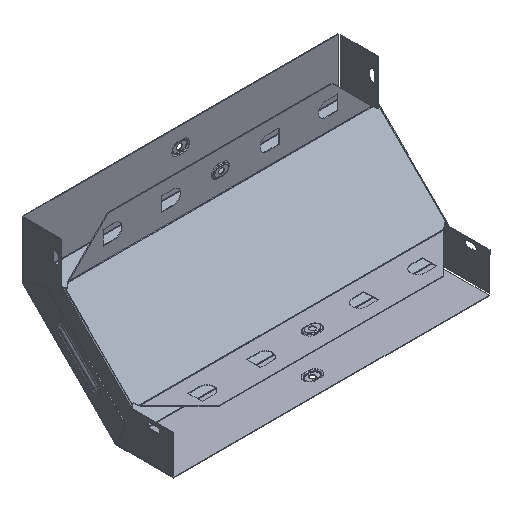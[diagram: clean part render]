
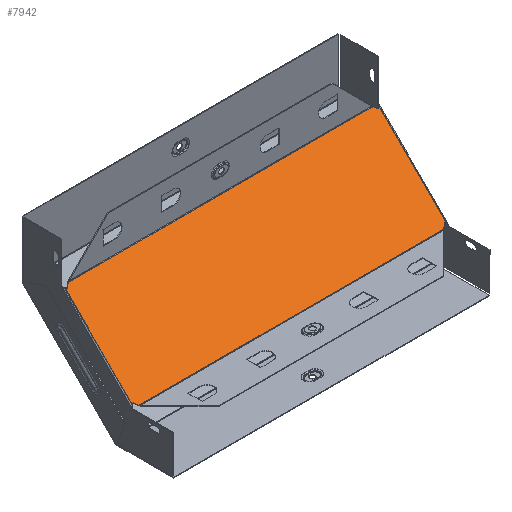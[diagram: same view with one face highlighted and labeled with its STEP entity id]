
A CAD part, isometric view. The second image highlights one B-rep face of the part: STEP entity #7942.
In plain terms, the highlighted planar face has unit normal (0, -0.707, 0.707).
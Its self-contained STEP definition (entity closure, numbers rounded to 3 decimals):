
#61 = VERTEX_POINT ( 'NONE', #5979 ) ;
#316 = CARTESIAN_POINT ( 'NONE',  ( 198.2, 69.707, 19.707 ) ) ;
#332 = ORIENTED_EDGE ( 'NONE', *, *, #7086, .T. ) ;
#737 = CARTESIAN_POINT ( 'NONE',  ( 141.546, 105.512, 55.512 ) ) ;
#755 = DIRECTION ( 'NONE',  ( 0., -0.707, -0.707 ) ) ;
#996 = VECTOR ( 'NONE', #755, 1000. ) ;
#1049 = VERTEX_POINT ( 'NONE', #7172 ) ;
#1067 = DIRECTION ( 'NONE',  ( -0.707, -0.5, -0.5 ) ) ;
#1669 = VERTEX_POINT ( 'NONE', #6723 ) ;
#1671 = ORIENTED_EDGE ( 'NONE', *, *, #8163, .T. ) ;
#1718 = CARTESIAN_POINT ( 'NONE',  ( 198.2, 70., 20. ) ) ;
#1735 = ORIENTED_EDGE ( 'NONE', *, *, #7897, .T. ) ;
#1779 = EDGE_CURVE ( 'NONE', #2046, #3544, #5435, .T. ) ;
#1795 = VERTEX_POINT ( 'NONE', #7406 ) ;
#1927 = PLANE ( 'NONE',  #6112 ) ;
#1936 = CARTESIAN_POINT ( 'NONE',  ( 196.592, -16.588, -66.588 ) ) ;
#1941 = LINE ( 'NONE', #5297, #8362 ) ;
#1946 = DIRECTION ( 'NONE',  ( -1., 0., 0. ) ) ;
#1960 = VECTOR ( 'NONE', #4795, 1000. ) ;
#2046 = VERTEX_POINT ( 'NONE', #4377 ) ;
#2071 = LINE ( 'NONE', #3672, #8037 ) ;
#2230 = VERTEX_POINT ( 'NONE', #4119 ) ;
#2238 = EDGE_CURVE ( 'NONE', #7931, #1795, #4495, .T. ) ;
#2314 = VECTOR ( 'NONE', #3368, 1000. ) ;
#2595 = VECTOR ( 'NONE', #6106, 1000. ) ;
#2610 = ORIENTED_EDGE ( 'NONE', *, *, #1779, .T. ) ;
#2688 = CARTESIAN_POINT ( 'NONE',  ( 141.546, -55.512, -105.512 ) ) ;
#2798 = VECTOR ( 'NONE', #8286, 1000. ) ;
#2942 = CARTESIAN_POINT ( 'NONE',  ( -198.2, 70., 20. ) ) ;
#3004 = LINE ( 'NONE', #2942, #6441 ) ;
#3260 = CARTESIAN_POINT ( 'NONE',  ( 192.181, -19.707, -69.707 ) ) ;
#3262 = CARTESIAN_POINT ( 'NONE',  ( -198.2, -17.724, -67.724 ) ) ;
#3368 = DIRECTION ( 'NONE',  ( 0.707, 0.5, 0.5 ) ) ;
#3480 = CARTESIAN_POINT ( 'NONE',  ( -141.546, -55.512, -105.512 ) ) ;
#3544 = VERTEX_POINT ( 'NONE', #7713 ) ;
#3672 = CARTESIAN_POINT ( 'NONE',  ( -200.299, 69.208, 19.208 ) ) ;
#3806 = CARTESIAN_POINT ( 'NONE',  ( 198.2, 67.724, 17.724 ) ) ;
#4061 = VECTOR ( 'NONE', #4234, 1000. ) ;
#4119 = CARTESIAN_POINT ( 'NONE',  ( 196.592, 66.588, 16.588 ) ) ;
#4133 = VERTEX_POINT ( 'NONE', #1936 ) ;
#4234 = DIRECTION ( 'NONE',  ( 0.707, -0.5, -0.5 ) ) ;
#4257 = LINE ( 'NONE', #6181, #4061 ) ;
#4292 = DIRECTION ( 'NONE',  ( -0.707, 0.5, 0.5 ) ) ;
#4377 = CARTESIAN_POINT ( 'NONE',  ( -196.592, -16.588, -66.588 ) ) ;
#4385 = CARTESIAN_POINT ( 'NONE',  ( -198.2, 67.724, 17.724 ) ) ;
#4435 = CARTESIAN_POINT ( 'NONE',  ( 200.299, 69.208, 19.208 ) ) ;
#4495 = LINE ( 'NONE', #6792, #996 ) ;
#4523 = VECTOR ( 'NONE', #4720, 1000. ) ;
#4720 = DIRECTION ( 'NONE',  ( 0.707, 0.5, 0.5 ) ) ;
#4770 = CARTESIAN_POINT ( 'NONE',  ( -200.299, -19.208, -69.208 ) ) ;
#4795 = DIRECTION ( 'NONE',  ( 0.707, -0.5, -0.5 ) ) ;
#5103 = VECTOR ( 'NONE', #1067, 1000. ) ;
#5231 = LINE ( 'NONE', #2688, #4523 ) ;
#5297 = CARTESIAN_POINT ( 'NONE',  ( -141.546, 105.512, 55.512 ) ) ;
#5387 = DIRECTION ( 'NONE',  ( -0.707, -0.5, -0.5 ) ) ;
#5435 = LINE ( 'NONE', #3480, #1960 ) ;
#5492 = ORIENTED_EDGE ( 'NONE', *, *, #6076, .T. ) ;
#5838 = ORIENTED_EDGE ( 'NONE', *, *, #8066, .T. ) ;
#5846 = LINE ( 'NONE', #4770, #2314 ) ;
#5979 = CARTESIAN_POINT ( 'NONE',  ( -192.181, 69.707, 19.707 ) ) ;
#5981 = EDGE_CURVE ( 'NONE', #8517, #3544, #6271, .T. ) ;
#6018 = EDGE_CURVE ( 'NONE', #8517, #4133, #5231, .T. ) ;
#6076 = EDGE_CURVE ( 'NONE', #7260, #2046, #5846, .T. ) ;
#6106 = DIRECTION ( 'NONE',  ( -0.707, 0.5, 0.5 ) ) ;
#6112 = AXIS2_PLACEMENT_3D ( 'NONE', #1718, #7272, #7692 ) ;
#6181 = CARTESIAN_POINT ( 'NONE',  ( 200.299, -19.208, -69.208 ) ) ;
#6271 = LINE ( 'NONE', #8643, #7634 ) ;
#6441 = VECTOR ( 'NONE', #8369, 1000. ) ;
#6584 = ORIENTED_EDGE ( 'NONE', *, *, #7004, .T. ) ;
#6723 = CARTESIAN_POINT ( 'NONE',  ( 192.181, 69.707, 19.707 ) ) ;
#6792 = CARTESIAN_POINT ( 'NONE',  ( 198.2, 70., 20. ) ) ;
#6808 = ORIENTED_EDGE ( 'NONE', *, *, #5981, .F. ) ;
#6961 = LINE ( 'NONE', #316, #2798 ) ;
#6967 = EDGE_LOOP ( 'NONE', ( #1735, #5838, #7223, #7175, #332, #6584, #5492, #2610, #6808, #7153, #1671, #8035 ) ) ;
#7004 = EDGE_CURVE ( 'NONE', #7467, #7260, #3004, .T. ) ;
#7016 = EDGE_CURVE ( 'NONE', #1669, #61, #6961, .T. ) ;
#7050 = LINE ( 'NONE', #4435, #5103 ) ;
#7086 = EDGE_CURVE ( 'NONE', #1049, #7467, #2071, .T. ) ;
#7153 = ORIENTED_EDGE ( 'NONE', *, *, #6018, .T. ) ;
#7172 = CARTESIAN_POINT ( 'NONE',  ( -196.592, 66.588, 16.588 ) ) ;
#7175 = ORIENTED_EDGE ( 'NONE', *, *, #8003, .T. ) ;
#7223 = ORIENTED_EDGE ( 'NONE', *, *, #7016, .T. ) ;
#7260 = VERTEX_POINT ( 'NONE', #3262 ) ;
#7272 = DIRECTION ( 'NONE',  ( 0., 0.707, -0.707 ) ) ;
#7406 = CARTESIAN_POINT ( 'NONE',  ( 198.2, -17.724, -67.724 ) ) ;
#7467 = VERTEX_POINT ( 'NONE', #4385 ) ;
#7634 = VECTOR ( 'NONE', #1946, 1000. ) ;
#7692 = DIRECTION ( 'NONE',  ( 0., 0.707, 0.707 ) ) ;
#7711 = LINE ( 'NONE', #737, #2595 ) ;
#7713 = CARTESIAN_POINT ( 'NONE',  ( -192.181, -19.707, -69.707 ) ) ;
#7897 = EDGE_CURVE ( 'NONE', #7931, #2230, #7050, .T. ) ;
#7931 = VERTEX_POINT ( 'NONE', #3806 ) ;
#7942 = ADVANCED_FACE ( 'NONE', ( #8350 ), #1927, .F. ) ;
#8003 = EDGE_CURVE ( 'NONE', #61, #1049, #1941, .T. ) ;
#8035 = ORIENTED_EDGE ( 'NONE', *, *, #2238, .F. ) ;
#8037 = VECTOR ( 'NONE', #4292, 1000. ) ;
#8066 = EDGE_CURVE ( 'NONE', #2230, #1669, #7711, .T. ) ;
#8163 = EDGE_CURVE ( 'NONE', #4133, #1795, #4257, .T. ) ;
#8286 = DIRECTION ( 'NONE',  ( -1., 0., 0. ) ) ;
#8350 = FACE_OUTER_BOUND ( 'NONE', #6967, .T. ) ;
#8362 = VECTOR ( 'NONE', #5387, 1000. ) ;
#8369 = DIRECTION ( 'NONE',  ( 0., -0.707, -0.707 ) ) ;
#8517 = VERTEX_POINT ( 'NONE', #3260 ) ;
#8643 = CARTESIAN_POINT ( 'NONE',  ( 198.2, -19.707, -69.707 ) ) ;
